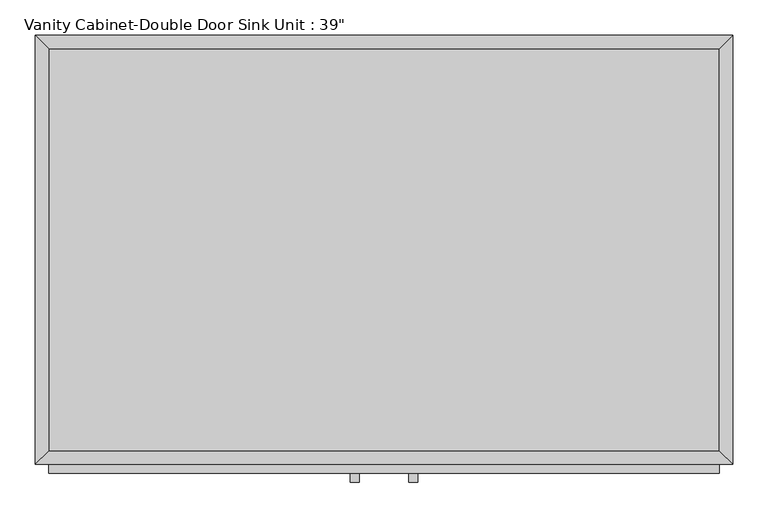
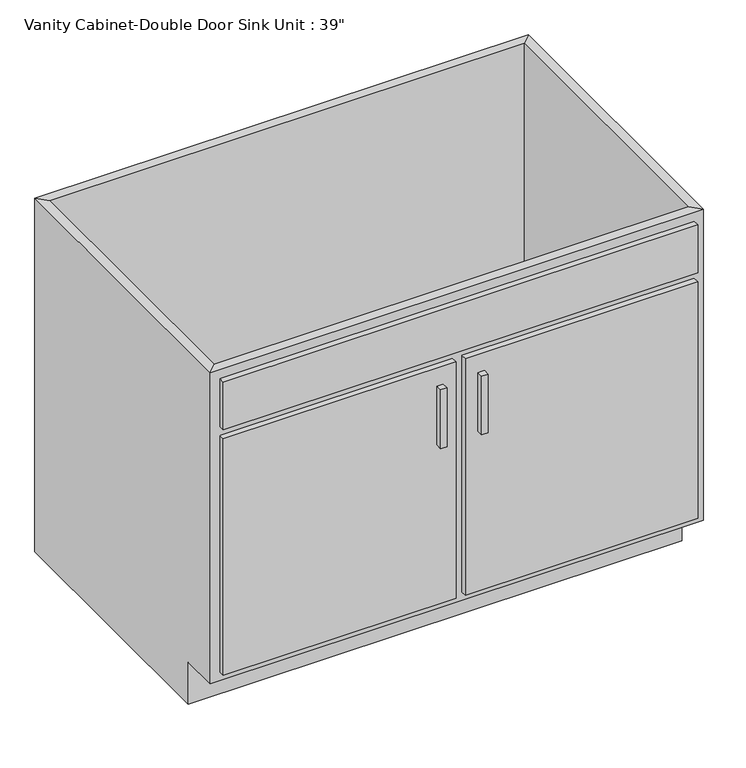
"""IFC4 building model written with IfcOpenShell, lengths in millimetres: furniture geometry."""

from ifc_helpers import new_model, si_unit, frame, origin, place, context, project, spatial, polyline, outline, extrude, faceted_brep, source, transform, mapped, element, save


def furniture_9117db5d(model_context):
    return source(origin(), model_context, "Body", "SolidModel", [
        faceted_brep([(494.9877049, -590.55, 749.3), (494.9877049, -590.55, 88.9), (-457.5122951, -590.55, 88.9), (-457.5122951, -590.55, 749.3), (-476.5622951, -609.6, 749.3), (514.0377049, -609.6, 749.3), (-476.5622951, -609.6, 88.9), (514.0377049, -609.6, 88.9), (-457.5122951, -533.4, 88.9), (-457.5122951, -19.05, 88.9), (-457.5122951, -19.05, 749.3), (-476.5622951, 0.0, 749.3), (-476.5622951, 0.0, 0.0), (-476.5622951, -533.4, 0.0), (-476.5622951, -533.4, 88.9), (494.9877049, -19.05, 88.9), (494.9877049, -19.05, 749.3), (514.0377049, 0.0, 749.3), (514.0377049, 0.0, 0.0), (494.9877049, -533.4, 88.9), (514.0377049, -533.4, 88.9), (514.0377049, -533.4, 0.0)], [[[0, 1, 2, 3]], [[0, 3, 4, 5]], [[5, 4, 6, 7]], [[2, 1, 7, 6]], [[3, 2, 8, 9, 10]], [[4, 3, 10, 11]], [[6, 4, 11, 12, 13, 14]], [[2, 6, 14, 8]], [[10, 9, 15, 16]], [[11, 10, 16, 17]], [[12, 11, 17, 18]], [[1, 0, 16, 15, 19]], [[0, 5, 17, 16]], [[5, 7, 20, 21, 18, 17]], [[7, 1, 19, 20]], [[8, 19, 15, 9]], [[18, 21, 13, 12]], [[13, 21, 20, 19, 8, 14]]]),
        extrude(outline(polyline([(-16.1872951, -635.0), (-28.8872951, -635.0), (-28.8872951, -622.3), (-16.1872951, -622.3), (-16.1872951, -635.0)])), frame((0.0, 0.0, 446.769895), z_axis=(0.0, 0.0, 1.0), x_axis=(1.0, 0.0, 0.0)), (0.0, 0.0, 1.0), 124.730105),
        extrude(outline(polyline([(66.3627049, -635.0), (53.6627049, -635.0), (53.6627049, -622.3), (66.3627049, -622.3), (66.3627049, -635.0)])), frame((0.0, 0.0, 446.769895), z_axis=(0.0, 0.0, 1.0), x_axis=(1.0, 0.0, 0.0)), (0.0, 0.0, 1.0), 124.730105),
        extrude(outline(polyline([(494.9877049, -19.05), (494.9877049, -590.55), (-457.5122951, -590.55), (-457.5122951, -19.05), (494.9877049, -19.05)])), frame((0.0, 0.0, 88.9), z_axis=(0.0, 0.0, 1.0), x_axis=(1.0, 0.0, 0.0)), (0.0, 0.0, 1.0), 19.05),
        extrude(outline(polyline([(9.2127049, -622.3), (-457.5122951, -622.3), (-457.5122951, -609.6), (9.2127049, -609.6), (9.2127049, -622.3)])), frame((0.0, 0.0, 107.95), z_axis=(0.0, 0.0, 1.0), x_axis=(1.0, 0.0, 0.0)), (0.0, 0.0, 1.0), 501.65),
        extrude(outline(polyline([(494.9877049, -622.3), (28.2627049, -622.3), (28.2627049, -609.6), (494.9877049, -609.6), (494.9877049, -622.3)])), frame((0.0, 0.0, 107.95), z_axis=(0.0, 0.0, 1.0), x_axis=(1.0, 0.0, 0.0)), (0.0, 0.0, 1.0), 501.65),
        extrude(outline(polyline([(494.9877049, -622.3), (-457.5122951, -622.3), (-457.5122951, -609.6), (494.9877049, -609.6), (494.9877049, -622.3)])), frame((0.0, 0.0, 628.65), z_axis=(0.0, 0.0, 1.0), x_axis=(1.0, 0.0, 0.0)), (0.0, 0.0, 1.0), 101.6),
    ])


if __name__ == "__main__":
    model = new_model("IFC4")
    model_context = context("Model", 3, world=origin())
    ifc_project = project(units=[si_unit("LENGTHUNIT", "METRE", prefix="MILLI")], contexts=[model_context])
    site = spatial("IfcSite", under=ifc_project)
    building = spatial("IfcBuilding", under=site)
    placement = place(None, origin())
    furniture_shape = furniture_9117db5d(model_context)
    element("IfcFurniture", 1, ObjectType="Vanity Cabinet-Double Door Sink Unit : 39\"", at=placement, inside=building, context=model_context, shape_type="MappedRepresentation", body=[
        mapped(furniture_shape, transform((0.0, 0.0, 0.0), x_axis=(1.0, 0.0, 0.0), y_axis=(0.0, 1.0, 0.0), z_axis=(0.0, 0.0, 1.0))),
    ])
    save(model, "model.ifc")
